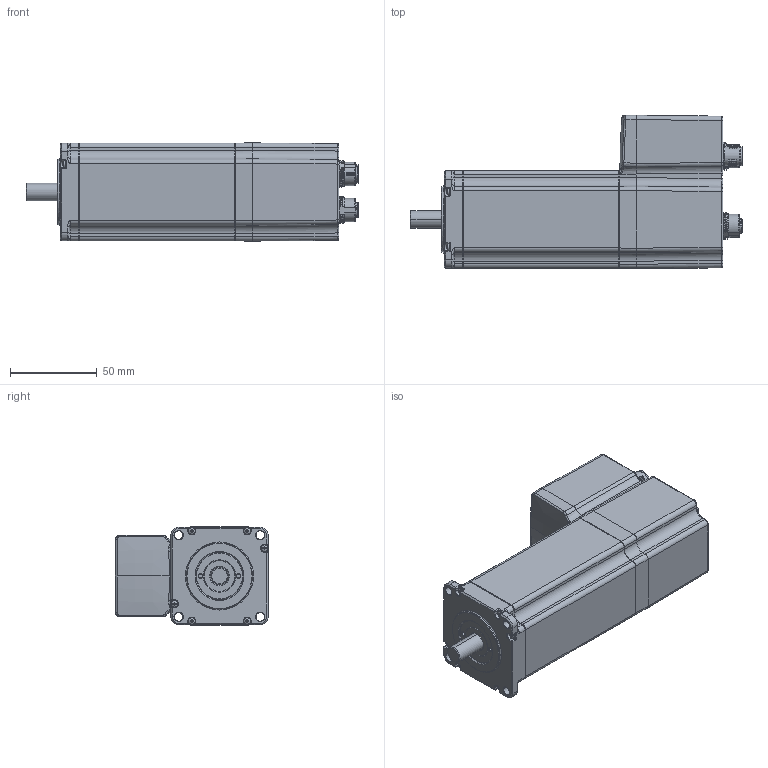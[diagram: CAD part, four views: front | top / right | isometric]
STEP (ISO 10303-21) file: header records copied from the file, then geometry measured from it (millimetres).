
FILE_DESCRIPTION((''),'2;1');
FILE_NAME('STEPPERASSY_ASM','2023-07-14T12:07:19',('VA'),(''),'CREO PARAMETRIC BY PTC INC, 2021063','CREO PARAMETRIC BY PTC INC, 2021063','');
FILE_SCHEMA(('AUTOMOTIVE_DESIGN { 1 0 10303 214 1 1 1 1 }'));
Products named in the file (8): FRONT_CAP_1; STATOR; AXIAL_CON; SHAFT_1; LOCK_NUT_1; SEALING_1; FAST_S; STEPPERASSY_ASM
Assembly tree (12 placements, depth 2):
  STEPPERASSY_ASM
    FRONT_CAP_1
    STATOR
    AXIAL_CON
    SHAFT_1
    LOCK_NUT_1
    SEALING_1
    FAST_S  x6
Bounding box: 191.7 x 88.42 x 56.67 mm (x, y, z)
Volume: 550331.5 mm3; surface area: 69234.5 mm2
Topology: 13 solids, 14 shells, 2054 faces, 5092 edges, 3135 vertices
Faces by surface type: plane 769, cylinder 576, bspline 266, cone 222, torus 186, sphere 33, extrusion 2
Entity records: 98141 total; most frequent: CARTESIAN_POINT 32330, ORIENTED_EDGE 9120, DIRECTION 8735, PRESENTATION_STYLE_ASSIGNMENT 4897, EDGE_CURVE 4562, STYLED_ITEM 4271, CURVE_STYLE 4044, AXIS2_PLACEMENT_3D 3254
